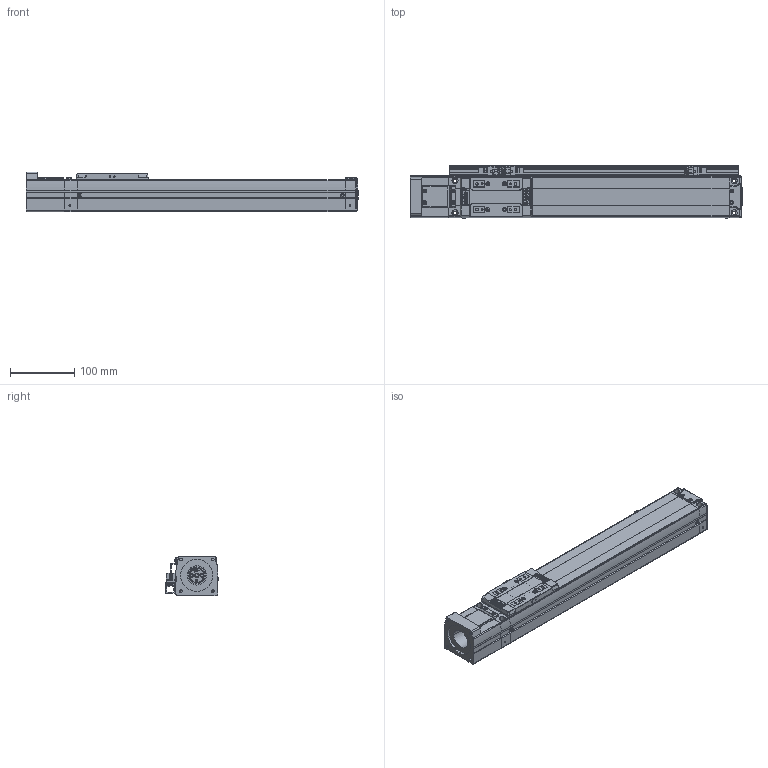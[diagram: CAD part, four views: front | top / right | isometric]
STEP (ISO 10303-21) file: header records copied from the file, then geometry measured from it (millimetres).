
FILE_DESCRIPTION(('STEP AP203'),'1');
FILE_NAME('Z:/Web/3D/SAN65/2012.ver/STP/300/SAN65ㅁㅁ-300S+3SL.stp','2014-06-13T06:09:35',(' '),(' '),'Spatial InterOp 3D',' ',' ');
FILE_SCHEMA(('CONFIG_CONTROL_DESIGN'));
Length unit declared in the file: millimetre
Products named in the file (74): 1; 2; 3; 4; 5; 6; 7; 8; 9; 10; 11; 12; 13; 14; 15; 16; 17; 18; 19; 20; 21; 22; 23; 24; 25; 26; 27; 28; 29; 30; 31; 32; 33; 34; 35; 36; 37; 38; 39; 40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
Bounding box: 516.15 x 82.06 x 62 mm (x, y, z)
Volume: 1685368.2 mm3; surface area: 281983 mm2
Topology: 74 solids, 74 shells, 2802 faces, 7355 edges, 4776 vertices
Faces by surface type: plane 1438, cylinder 936, cone 318, sphere 56, bspline 28, torus 20, extrusion 6
Full cylindrical faces by diameter (mm): 2.132 x1, 3.5 x2, 6 x2
Entity records: 93417 total; most frequent: CARTESIAN_POINT 18983, DIRECTION 15398, ORIENTED_EDGE 14562, EDGE_CURVE 7281, AXIS2_PLACEMENT_3D 5511, VERTEX_POINT 4775, VECTOR 4376, LINE 4370
